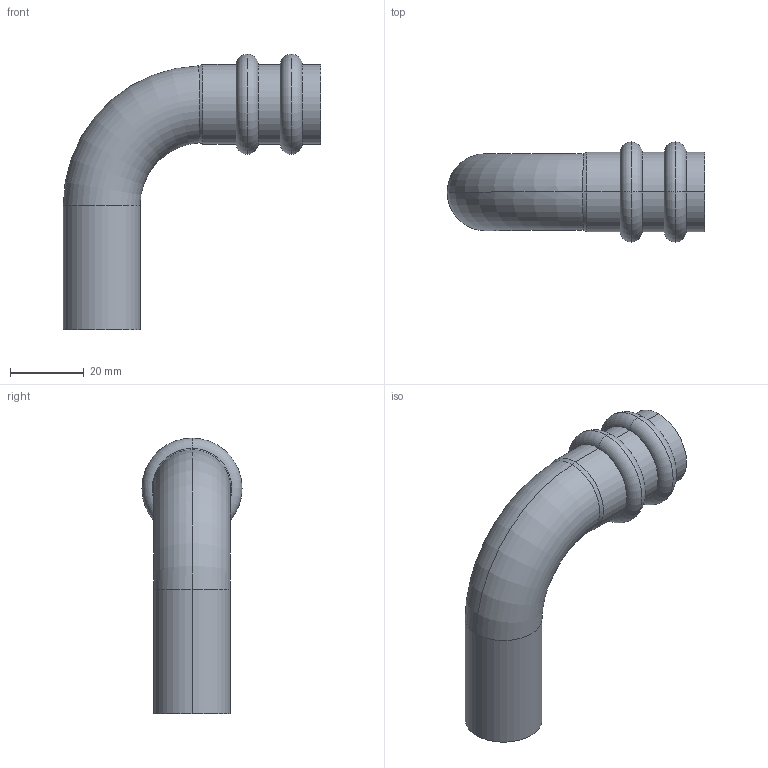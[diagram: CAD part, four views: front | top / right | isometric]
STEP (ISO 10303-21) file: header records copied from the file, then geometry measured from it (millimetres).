
FILE_DESCRIPTION(('starvars output'),'1');
FILE_NAME('cv20240422105019000011470.stp','10:50:20 2024/04/22',('Thomas Industrial Network Germany GmbH'),(' '),'Spatial InterOp 3D',' ',' ');
FILE_SCHEMA(('AUTOMOTIVE_DESIGN { 1 0 10303 214 3 1 1 }'));
Length unit declared in the file: millimetre
Products named in the file (1): 1
Bounding box: 69.94 x 27.2 x 74.85 mm (x, y, z)
Volume: 7145.2 mm3; surface area: 15334.8 mm2
Topology: 1 solids, 1 shells, 52 faces, 109 edges, 68 vertices
Faces by surface type: torus 20, cylinder 16, plane 12, cone 4
Entity records: 2114 total; most frequent: CARTESIAN_POINT 494, DIRECTION 288, ORIENTED_EDGE 218, AXIS2_PLACEMENT_3D 134, EDGE_CURVE 109, CIRCLE 81, VERTEX_POINT 68, EDGE_LOOP 63
